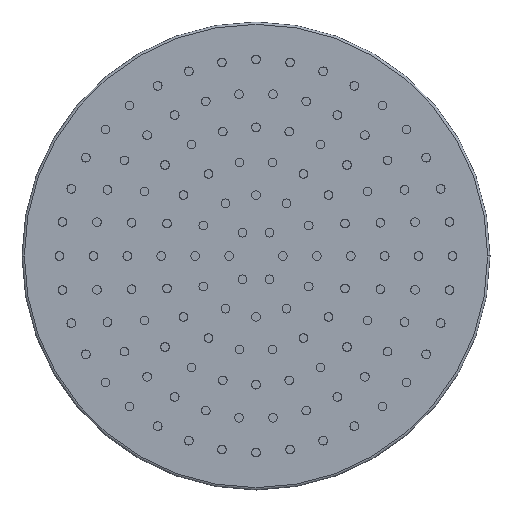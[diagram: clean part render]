
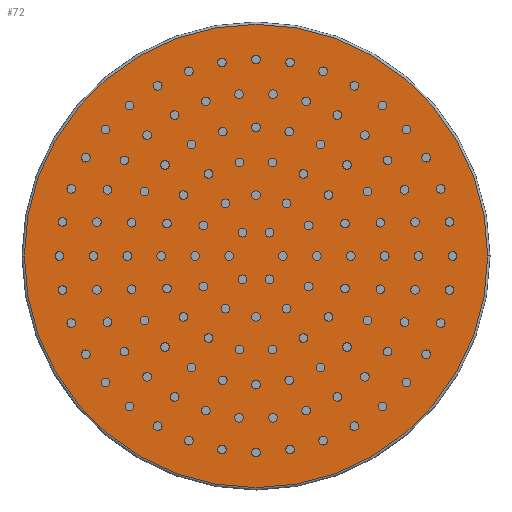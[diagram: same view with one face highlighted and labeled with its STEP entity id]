
A CAD part, front view. The second image highlights one B-rep face of the part: STEP entity #72.
In plain terms, the highlighted planar face has unit normal (0, -1, 0).
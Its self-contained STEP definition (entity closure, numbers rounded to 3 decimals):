
#1=CARTESIAN_POINT('',(0.,0.,0.));
#2=DIRECTION('',(0.,1.,0.));
#3=DIRECTION('',(1.,0.,0.));
#4=AXIS2_PLACEMENT_3D('',#1,#2,#3);
#6=CARTESIAN_POINT('',(0.,0.,0.));
#7=DIRECTION('',(0.,1.,0.));
#8=DIRECTION('',(-1.,0.,0.));
#9=AXIS2_PLACEMENT_3D('',#6,#7,#8);
#57=CARTESIAN_POINT('',(99.,0.,0.));
#58=CARTESIAN_POINT('',(-99.,0.,
0.));
#59=VERTEX_POINT('',#57);
#60=VERTEX_POINT('',#58);
#61=CARTESIAN_POINT('',(0.,0.,0.));
#62=DIRECTION('',(0.,-1.,0.));
#63=DIRECTION('',(-1.,0.,0.));
#64=AXIS2_PLACEMENT_3D('',#61,#62,#63);
#65=PLANE('',#64);
#67=ORIENTED_EDGE('',*,*,#66,.T.);
#69=ORIENTED_EDGE('',*,*,#68,.T.);
#70=EDGE_LOOP('',(#67,#69));
#71=FACE_OUTER_BOUND('',#70,.F.);
#72=ADVANCED_FACE('',(#71),#65,.T.);
#5=CIRCLE('',#4,99.);
#10=CIRCLE('',#9,99.);
#66=EDGE_CURVE('',#59,#60,#5,.T.);
#68=EDGE_CURVE('',#60,#59,#10,.T.);
